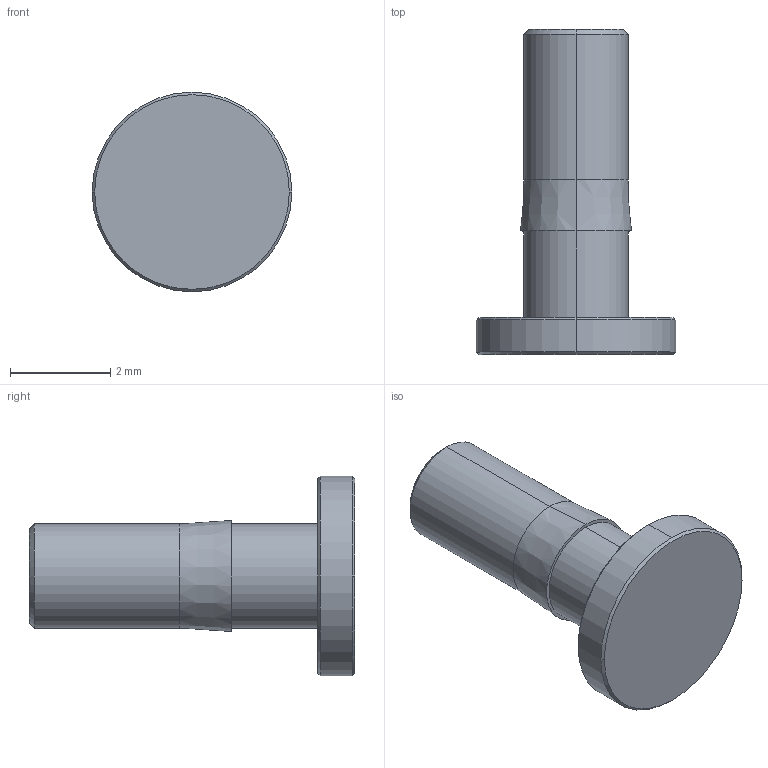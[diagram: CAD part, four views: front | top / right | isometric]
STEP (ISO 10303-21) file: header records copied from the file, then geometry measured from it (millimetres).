
FILE_DESCRIPTION (( 'STEP AP214' ), '1' );
FILE_NAME ('IPP2S.STEP', '2021-07-21T15:58:09', ( '' ), ( '' ), 'SwSTEP 2.0', 'SolidWorks 2021', '' );
FILE_SCHEMA (( 'AUTOMOTIVE_DESIGN' ));
Length unit declared in the file: millimetre
Products named in the file (1): IPP2S
Bounding box: 3.99 x 6.5 x 3.99 mm (x, y, z)
Volume: 26.5 mm3; surface area: 77.8 mm2
Topology: 1 solids, 1 shells, 24 faces, 52 edges, 31 vertices
Faces by surface type: cone 12, cylinder 8, plane 4
Entity records: 682 total; most frequent: DIRECTION 130, CARTESIAN_POINT 106, ORIENTED_EDGE 100, AXIS2_PLACEMENT_3D 55, EDGE_CURVE 50, VERTEX_POINT 31, CIRCLE 30, EDGE_LOOP 27
